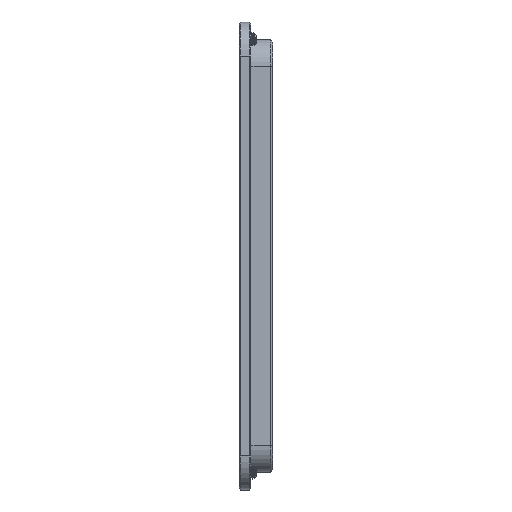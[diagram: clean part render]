
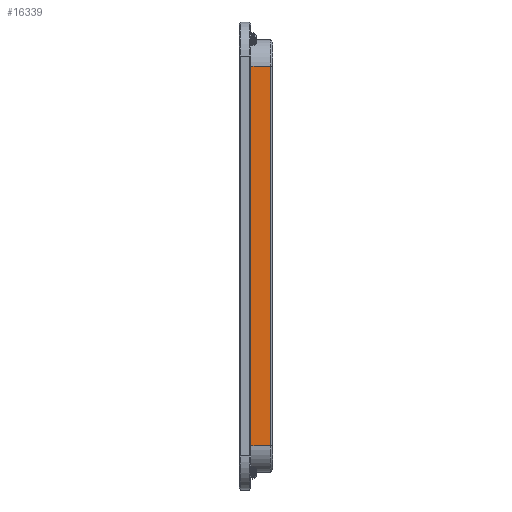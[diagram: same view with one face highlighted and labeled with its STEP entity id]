
A CAD part, left-side view. The second image highlights one B-rep face of the part: STEP entity #16339.
In plain terms, the highlighted planar face has unit normal (-1, 0, 0).
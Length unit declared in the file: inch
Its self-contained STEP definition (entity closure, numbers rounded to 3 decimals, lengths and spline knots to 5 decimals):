
#1974 = DIRECTION ( 'NONE',  ( -1., 0., 0. ) ) ;
#3092 = FACE_OUTER_BOUND ( 'NONE', #9641, .T. ) ;
#3975 = DIRECTION ( 'NONE',  ( 0., 0., 1. ) ) ;
#4014 = DIRECTION ( 'NONE',  ( 0., 1., 0. ) ) ;
#4032 = DIRECTION ( 'NONE',  ( 0., -1., 0. ) ) ;
#4750 = CARTESIAN_POINT ( 'NONE',  ( -2.985, -0.288, -1.75 ) ) ;
#4834 = CARTESIAN_POINT ( 'NONE',  ( -2.985, -0.11, -1.75 ) ) ;
#5658 = LINE ( 'NONE', #12394, #7827 ) ;
#6376 = ORIENTED_EDGE ( 'NONE', *, *, #14134, .T. ) ;
#6990 = VECTOR ( 'NONE', #15067, 39.37008 ) ;
#7012 = EDGE_CURVE ( 'NONE', #20674, #18451, #12244, .T. ) ;
#7533 = DIRECTION ( 'NONE',  ( 0., 0., 1. ) ) ;
#7827 = VECTOR ( 'NONE', #7533, 39.37008 ) ;
#8250 = CARTESIAN_POINT ( 'NONE',  ( -2.985, -0.11, 0. ) ) ;
#8270 = PLANE ( 'NONE',  #21245 ) ;
#8432 = VECTOR ( 'NONE', #4032, 39.37008 ) ;
#9641 = EDGE_LOOP ( 'NONE', ( #11484, #6376, #11176, #9960 ) ) ;
#9960 = ORIENTED_EDGE ( 'NONE', *, *, #19823, .F. ) ;
#10954 = LINE ( 'NONE', #17376, #8432 ) ;
#11176 = ORIENTED_EDGE ( 'NONE', *, *, #7012, .T. ) ;
#11484 = ORIENTED_EDGE ( 'NONE', *, *, #20764, .T. ) ;
#12244 = LINE ( 'NONE', #18993, #14528 ) ;
#12394 = CARTESIAN_POINT ( 'NONE',  ( -2.985, -0.288, 1.75 ) ) ;
#14134 = EDGE_CURVE ( 'NONE', #21766, #20674, #5658, .T. ) ;
#14528 = VECTOR ( 'NONE', #4014, 39.37008 ) ;
#14977 = LINE ( 'NONE', #8250, #6990 ) ;
#15067 = DIRECTION ( 'NONE',  ( 0., 0., 1. ) ) ;
#15615 = CARTESIAN_POINT ( 'NONE',  ( -2.985, -0.11, 1.75 ) ) ;
#16339 = ADVANCED_FACE ( 'NONE', ( #3092 ), #8270, .T. ) ;
#17376 = CARTESIAN_POINT ( 'NONE',  ( -2.985, -0.313, -1.75 ) ) ;
#18451 = VERTEX_POINT ( 'NONE', #15615 ) ;
#18749 = CARTESIAN_POINT ( 'NONE',  ( -2.985, -0.313, 0. ) ) ;
#18993 = CARTESIAN_POINT ( 'NONE',  ( -2.985, -0.313, 1.75 ) ) ;
#19538 = VERTEX_POINT ( 'NONE', #4834 ) ;
#19823 = EDGE_CURVE ( 'NONE', #19538, #18451, #14977, .T. ) ;
#20348 = CARTESIAN_POINT ( 'NONE',  ( -2.985, -0.288, 1.75 ) ) ;
#20674 = VERTEX_POINT ( 'NONE', #20348 ) ;
#20764 = EDGE_CURVE ( 'NONE', #19538, #21766, #10954, .T. ) ;
#21245 = AXIS2_PLACEMENT_3D ( 'NONE', #18749, #1974, #3975 ) ;
#21766 = VERTEX_POINT ( 'NONE', #4750 ) ;
